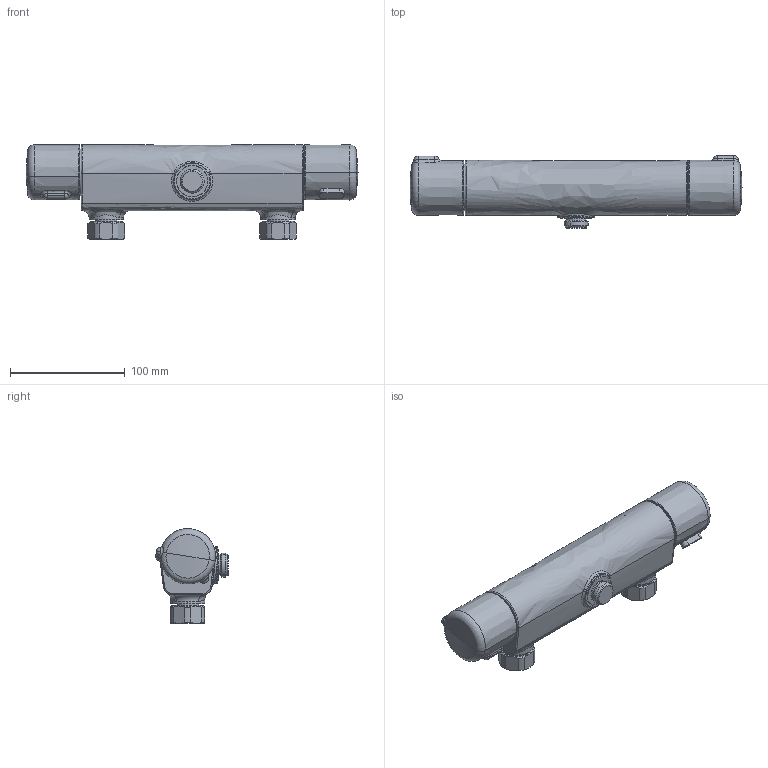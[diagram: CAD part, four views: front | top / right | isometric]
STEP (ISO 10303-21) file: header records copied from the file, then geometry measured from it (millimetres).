
FILE_DESCRIPTION (( 'STEP AP203' ), '1' );
FILE_NAME ('7460L(2019).STEP', '2020-02-03T12:59:42', ( '' ), ( '' ), 'SwSTEP 2.0', 'SolidWorks 2016', '' );
FILE_SCHEMA (( 'CONFIG_CONTROL_DESIGN' ));
Length unit declared in the file: millimetre
Products named in the file (1): 7460L(2019)
Bounding box: 289.8 x 63.4 x 82.66 mm (x, y, z)
Volume: 664501.5 mm3; surface area: 65208.8 mm2
Topology: 1 solids, 1 shells, 223 faces, 517 edges, 316 vertices
Faces by surface type: bspline 54, cylinder 52, plane 43, cone 42, torus 18, sphere 14
Entity records: 11611 total; most frequent: CARTESIAN_POINT 6884, ORIENTED_EDGE 1026, DIRECTION 899, EDGE_CURVE 513, AXIS2_PLACEMENT_3D 396, VERTEX_POINT 314, EDGE_LOOP 245, CIRCLE 226
